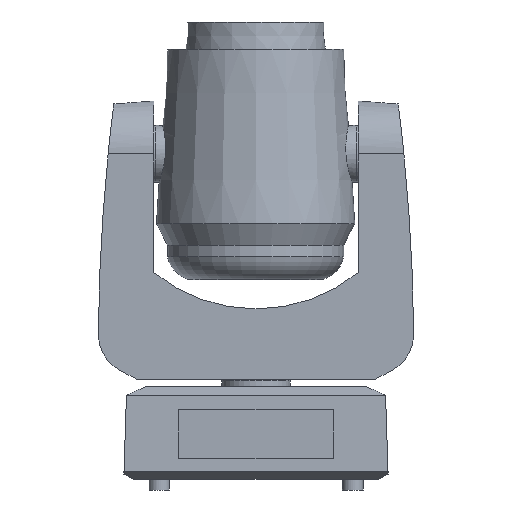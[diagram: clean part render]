
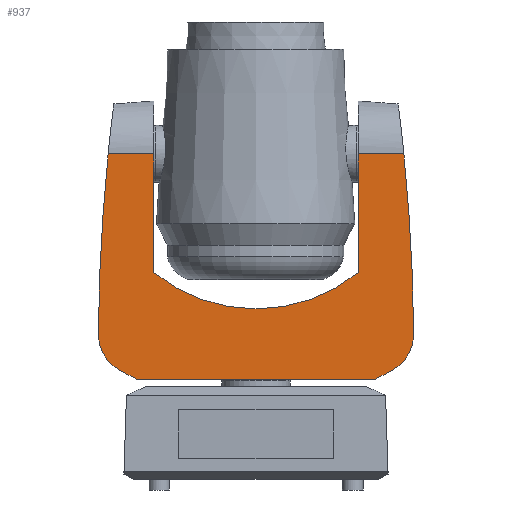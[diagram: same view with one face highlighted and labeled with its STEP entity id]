
A CAD part, left-side view. The second image highlights one B-rep face of the part: STEP entity #937.
In plain terms, the highlighted planar face has unit normal (-1, 0, 0).
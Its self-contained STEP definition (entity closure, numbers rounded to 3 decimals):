
#79=CIRCLE('',#1038,35.859);
#81=CIRCLE('',#1041,1688.88);
#86=CIRCLE('',#1051,141.717);
#88=CIRCLE('',#1057,35.859);
#93=CIRCLE('',#1065,1688.88);
#268=ORIENTED_EDGE('',*,*,#415,.F.);
#269=ORIENTED_EDGE('',*,*,#410,.T.);
#270=ORIENTED_EDGE('',*,*,#438,.F.);
#271=ORIENTED_EDGE('',*,*,#401,.T.);
#272=ORIENTED_EDGE('',*,*,#398,.T.);
#273=ORIENTED_EDGE('',*,*,#394,.T.);
#274=ORIENTED_EDGE('',*,*,#439,.F.);
#275=ORIENTED_EDGE('',*,*,#426,.F.);
#276=ORIENTED_EDGE('',*,*,#423,.F.);
#277=ORIENTED_EDGE('',*,*,#435,.F.);
#278=ORIENTED_EDGE('',*,*,#440,.T.);
#279=ORIENTED_EDGE('',*,*,#430,.F.);
#394=EDGE_CURVE('',#495,#496,#586,.T.);
#398=EDGE_CURVE('',#499,#495,#79,.T.);
#401=EDGE_CURVE('',#501,#499,#81,.T.);
#410=EDGE_CURVE('',#508,#509,#593,.T.);
#415=EDGE_CURVE('',#508,#512,#86,.F.);
#423=EDGE_CURVE('',#519,#520,#88,.T.);
#426=EDGE_CURVE('',#520,#522,#601,.T.);
#430=EDGE_CURVE('',#512,#525,#604,.T.);
#435=EDGE_CURVE('',#527,#519,#93,.T.);
#438=EDGE_CURVE('',#501,#509,#606,.T.);
#439=EDGE_CURVE('',#522,#496,#607,.T.);
#440=EDGE_CURVE('',#527,#525,#608,.T.);
#495=VERTEX_POINT('',#1511);
#496=VERTEX_POINT('',#1512);
#499=VERTEX_POINT('',#1520);
#501=VERTEX_POINT('',#1526);
#508=VERTEX_POINT('',#1564);
#509=VERTEX_POINT('',#1565);
#512=VERTEX_POINT('',#1574);
#519=VERTEX_POINT('',#1590);
#520=VERTEX_POINT('',#1592);
#522=VERTEX_POINT('',#1598);
#525=VERTEX_POINT('',#1606);
#527=VERTEX_POINT('',#1623);
#586=LINE('',#1510,#656);
#593=LINE('',#1563,#663);
#601=LINE('',#1597,#671);
#604=LINE('',#1605,#674);
#606=LINE('',#1639,#676);
#607=LINE('',#1640,#677);
#608=LINE('',#1641,#678);
#656=VECTOR('',#1230,1000.);
#663=VECTOR('',#1259,1000.);
#671=VECTOR('',#1291,1000.);
#674=VECTOR('',#1298,1000.);
#676=VECTOR('',#1312,1000.);
#677=VECTOR('',#1313,1000.);
#678=VECTOR('',#1314,1000.);
#735=EDGE_LOOP('',(#268,#269,#270,#271,#272,#273,#274,#275,#276,#277,#278,
#279));
#823=FACE_BOUND('',#735,.T.);
#888=PLANE('',#1067);
#937=ADVANCED_FACE('',(#823),#888,.F.);
#1038=AXIS2_PLACEMENT_3D('',#1519,#1236,#1237);
#1041=AXIS2_PLACEMENT_3D('',#1525,#1243,#1244);
#1051=AXIS2_PLACEMENT_3D('',#1573,#1268,#1269);
#1057=AXIS2_PLACEMENT_3D('',#1591,#1284,#1285);
#1065=AXIS2_PLACEMENT_3D('',#1624,#1306,#1307);
#1067=AXIS2_PLACEMENT_3D('',#1638,#1310,#1311);
#1230=DIRECTION('',(0.,-0.877,-0.48));
#1236=DIRECTION('',(-1.,0.,0.));
#1237=DIRECTION('',(0.,0.,1.));
#1243=DIRECTION('',(-1.,0.,0.));
#1244=DIRECTION('',(0.,0.,1.));
#1259=DIRECTION('',(0.,0.,1.));
#1268=DIRECTION('',(1.,0.,0.));
#1269=DIRECTION('',(0.,0.,-1.));
#1284=DIRECTION('',(1.,0.,0.));
#1285=DIRECTION('',(0.,0.,-1.));
#1291=DIRECTION('',(0.,0.877,-0.48));
#1298=DIRECTION('',(0.,0.,1.));
#1306=DIRECTION('',(1.,0.,0.));
#1307=DIRECTION('',(0.,0.,-1.));
#1310=DIRECTION('',(1.,0.,0.));
#1311=DIRECTION('',(0.,0.,-1.));
#1312=DIRECTION('',(0.,-1.,0.));
#1313=DIRECTION('',(0.,1.,0.));
#1314=DIRECTION('',(0.,1.,0.));
#1510=CARTESIAN_POINT('',(-47.02,119.504,-138.35));
#1511=CARTESIAN_POINT('',(-47.02,119.504,-138.35));
#1512=CARTESIAN_POINT('',(-47.02,104.027,-146.817));
#1519=CARTESIAN_POINT('',(-47.02,102.295,-106.89));
#1520=CARTESIAN_POINT('',(-47.02,138.121,-105.362));
#1525=CARTESIAN_POINT('',(-47.02,-1550.7,-119.392));
#1526=CARTESIAN_POINT('',(-47.02,129.562,51.));
#1563=CARTESIAN_POINT('',(-47.02,89.652,97.387));
#1564=CARTESIAN_POINT('',(-47.02,89.652,-52.822));
#1565=CARTESIAN_POINT('',(-47.02,89.652,51.));
#1573=CARTESIAN_POINT('',(-47.02,0.,56.933));
#1574=CARTESIAN_POINT('',(-47.02,-89.652,-52.822));
#1590=CARTESIAN_POINT('',(-47.02,-138.121,-105.362));
#1591=CARTESIAN_POINT('',(-47.02,-102.295,-106.89));
#1592=CARTESIAN_POINT('',(-47.02,-119.504,-138.35));
#1597=CARTESIAN_POINT('',(-47.02,-119.504,-138.35));
#1598=CARTESIAN_POINT('',(-47.02,-104.027,-146.817));
#1605=CARTESIAN_POINT('',(-47.02,-89.652,97.387));
#1606=CARTESIAN_POINT('',(-47.02,-89.652,51.));
#1623=CARTESIAN_POINT('',(-47.02,-129.562,51.));
#1624=CARTESIAN_POINT('',(-47.02,1550.7,-119.392));
#1638=CARTESIAN_POINT('',(-47.02,-406.212,51.));
#1639=CARTESIAN_POINT('',(-47.02,406.212,51.));
#1640=CARTESIAN_POINT('',(-47.02,-406.212,-146.817));
#1641=CARTESIAN_POINT('',(-47.02,-406.212,51.));
